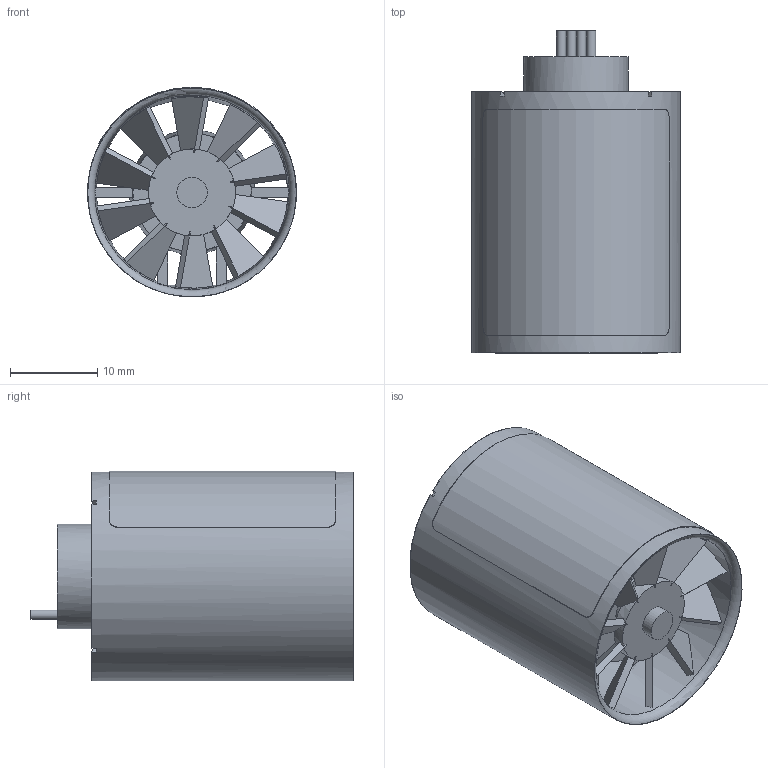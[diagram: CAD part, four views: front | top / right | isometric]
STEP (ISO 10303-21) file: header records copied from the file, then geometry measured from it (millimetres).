
FILE_DESCRIPTION(/* description */ (''),/* implementation_level */ '2;1');
FILE_NAME(/* name */ 'Fan D241P-006KH-4.stp',/* time_stamp */ '2021-04-19T12:16:01+02:00',/* author */ (''),/* organization */ (''),/* preprocessor_version */ 'ST-DEVELOPER v16.7',/* originating_system */ 'SIEMENS PLM Software NX 1946',/* authorisation */ '');
FILE_SCHEMA (('AUTOMOTIVE_DESIGN { 1 0 10303 214 3 1 1 1 }'));
Length unit declared in the file: millimetre
Products named in the file (1): 015791_1-Fan D241P-006KH-4 _-_
Bounding box: 23.99 x 37 x 24.1 mm (x, y, z)
Surface area: 7535 mm2 (no closed solid volume)
Topology: 0 solids, 1 shells, 174 faces, 484 edges, 320 vertices
Faces by surface type: plane 125, cylinder 40, cone 7, torus 2
Full cylindrical faces by diameter (mm): 1.05 x4, 1.25 x2, 1.5 x1, 2.5 x1, 3.5 x2, 5 x1, 12 x1, 24 x1
Entity records: 5768 total; most frequent: CARTESIAN_POINT 1213, DIRECTION 933, ORIENTED_EDGE 888, EDGE_CURVE 444, AXIS2_PLACEMENT_3D 347, VERTEX_POINT 307, LINE 239, VECTOR 239
